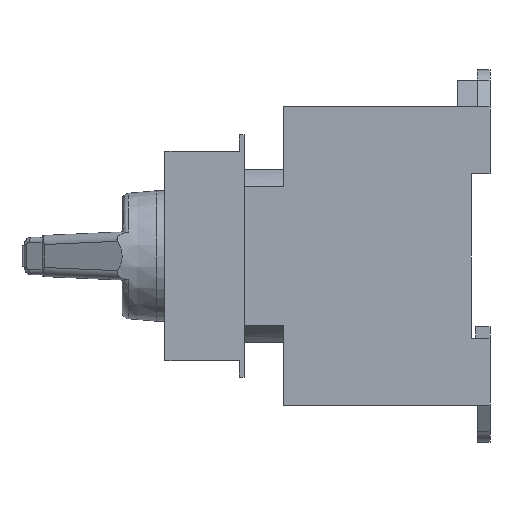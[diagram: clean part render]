
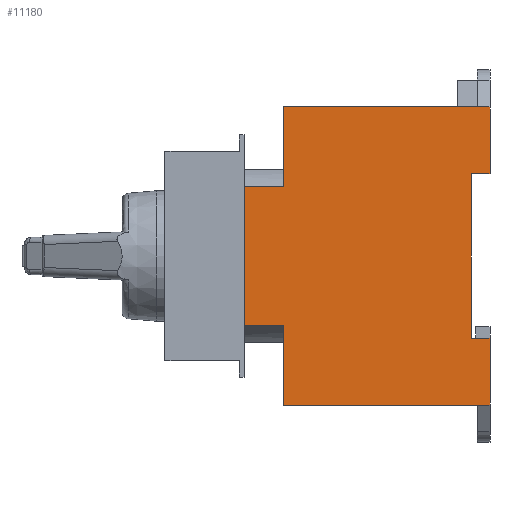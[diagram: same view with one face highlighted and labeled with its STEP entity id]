
A CAD part, left-side view. The second image highlights one B-rep face of the part: STEP entity #11180.
In plain terms, the highlighted planar face has unit normal (-1, 0, 0).
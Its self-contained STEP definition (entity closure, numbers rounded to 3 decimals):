
#144 = EDGE_CURVE ( 'NONE', #2585, #4049, #7079, .T. ) ;
#428 = VECTOR ( 'NONE', #7724, 1000. ) ;
#489 = VERTEX_POINT ( 'NONE', #7848 ) ;
#712 = LINE ( 'NONE', #1065, #428 ) ;
#810 = VECTOR ( 'NONE', #11464, 1000. ) ;
#963 = LINE ( 'NONE', #3751, #810 ) ;
#1057 = DIRECTION ( 'NONE',  ( 0., 0., -1. ) ) ;
#1065 = CARTESIAN_POINT ( 'NONE',  ( -24., 44.3, -32. ) ) ;
#1073 = DIRECTION ( 'NONE',  ( 0., 0., 1. ) ) ;
#1139 = CARTESIAN_POINT ( 'NONE',  ( -24., 0., -32. ) ) ;
#1658 = DIRECTION ( 'NONE',  ( 1., 0., 0. ) ) ;
#1739 = DIRECTION ( 'NONE',  ( 0., 1., 0. ) ) ;
#1773 = EDGE_CURVE ( 'NONE', #5407, #2585, #2458, .T. ) ;
#1981 = VECTOR ( 'NONE', #1057, 1000. ) ;
#1989 = VECTOR ( 'NONE', #6213, 1000. ) ;
#2133 = LINE ( 'NONE', #1139, #1981 ) ;
#2183 = LINE ( 'NONE', #9574, #1989 ) ;
#2320 = VECTOR ( 'NONE', #11396, 1000. ) ;
#2458 = LINE ( 'NONE', #11453, #2320 ) ;
#2585 = VERTEX_POINT ( 'NONE', #12430 ) ;
#2740 = CARTESIAN_POINT ( 'NONE',  ( -24., 0., 17.65 ) ) ;
#2938 = EDGE_CURVE ( 'NONE', #4657, #4683, #9770, .T. ) ;
#3036 = VERTEX_POINT ( 'NONE', #4885 ) ;
#3192 = VERTEX_POINT ( 'NONE', #2740 ) ;
#3436 = DIRECTION ( 'NONE',  ( 0., 1., 0. ) ) ;
#3468 = CARTESIAN_POINT ( 'NONE',  ( -24., 0., -17.65 ) ) ;
#3751 = CARTESIAN_POINT ( 'NONE',  ( -24., 44.3, 15. ) ) ;
#3755 = CARTESIAN_POINT ( 'NONE',  ( -24., 44.3, -15. ) ) ;
#3913 = VERTEX_POINT ( 'NONE', #11437 ) ;
#4046 = EDGE_CURVE ( 'NONE', #4347, #4335, #4823, .T. ) ;
#4049 = VERTEX_POINT ( 'NONE', #3468 ) ;
#4101 = VECTOR ( 'NONE', #1739, 1000. ) ;
#4193 = EDGE_CURVE ( 'NONE', #3913, #489, #4406, .T. ) ;
#4335 = VERTEX_POINT ( 'NONE', #9823 ) ;
#4347 = VERTEX_POINT ( 'NONE', #9687 ) ;
#4406 = LINE ( 'NONE', #6548, #4101 ) ;
#4657 = VERTEX_POINT ( 'NONE', #8824 ) ;
#4674 = EDGE_CURVE ( 'NONE', #4049, #3913, #2133, .T. ) ;
#4683 = VERTEX_POINT ( 'NONE', #6683 ) ;
#4823 = LINE ( 'NONE', #3755, #4856 ) ;
#4856 = VECTOR ( 'NONE', #3436, 1000. ) ;
#4885 = CARTESIAN_POINT ( 'NONE',  ( -24., 52.8, 15. ) ) ;
#4943 = VERTEX_POINT ( 'NONE', #11505 ) ;
#5048 = FACE_OUTER_BOUND ( 'NONE', #5388, .T. ) ;
#5247 = CARTESIAN_POINT ( 'NONE',  ( -24., 44.3, 17.65 ) ) ;
#5388 = EDGE_LOOP ( 'NONE', ( #7087, #7169, #7244, #7320, #7333, #7379, #7496, #7545, #7558, #7646, #7662, #7823 ) ) ;
#5407 = VERTEX_POINT ( 'NONE', #8499 ) ;
#6063 = DIRECTION ( 'NONE',  ( 0., 0., -1. ) ) ;
#6168 = EDGE_CURVE ( 'NONE', #3192, #5407, #9827, .T. ) ;
#6213 = DIRECTION ( 'NONE',  ( 0., -1., 0. ) ) ;
#6496 = CARTESIAN_POINT ( 'NONE',  ( -24., 52.8, -32. ) ) ;
#6548 = CARTESIAN_POINT ( 'NONE',  ( -24., 44.3, -32. ) ) ;
#6679 = EDGE_CURVE ( 'NONE', #4335, #3036, #8618, .T. ) ;
#6683 = CARTESIAN_POINT ( 'NONE',  ( -24., 44.3, 32. ) ) ;
#6854 = DIRECTION ( 'NONE',  ( 0., 0., 1. ) ) ;
#6913 = VECTOR ( 'NONE', #12060, 1000. ) ;
#6993 = EDGE_CURVE ( 'NONE', #4943, #3192, #7677, .T. ) ;
#7016 = DIRECTION ( 'NONE',  ( 0., 1., 0. ) ) ;
#7079 = LINE ( 'NONE', #12238, #6913 ) ;
#7087 = ORIENTED_EDGE ( 'NONE', *, *, #6168, .F. ) ;
#7169 = ORIENTED_EDGE ( 'NONE', *, *, #6993, .F. ) ;
#7244 = ORIENTED_EDGE ( 'NONE', *, *, #8677, .F. ) ;
#7320 = ORIENTED_EDGE ( 'NONE', *, *, #2938, .F. ) ;
#7333 = ORIENTED_EDGE ( 'NONE', *, *, #12202, .F. ) ;
#7379 = ORIENTED_EDGE ( 'NONE', *, *, #6679, .F. ) ;
#7398 = PLANE ( 'NONE',  #10187 ) ;
#7400 = CARTESIAN_POINT ( 'NONE',  ( -24., 44.3, -32. ) ) ;
#7496 = ORIENTED_EDGE ( 'NONE', *, *, #4046, .F. ) ;
#7545 = ORIENTED_EDGE ( 'NONE', *, *, #12355, .F. ) ;
#7558 = ORIENTED_EDGE ( 'NONE', *, *, #4193, .F. ) ;
#7646 = ORIENTED_EDGE ( 'NONE', *, *, #4674, .F. ) ;
#7662 = ORIENTED_EDGE ( 'NONE', *, *, #144, .F. ) ;
#7677 = LINE ( 'NONE', #11889, #7794 ) ;
#7724 = DIRECTION ( 'NONE',  ( 0., 0., 1. ) ) ;
#7794 = VECTOR ( 'NONE', #6063, 1000. ) ;
#7823 = ORIENTED_EDGE ( 'NONE', *, *, #1773, .F. ) ;
#7848 = CARTESIAN_POINT ( 'NONE',  ( -24., 44.3, -32. ) ) ;
#8350 = DIRECTION ( 'NONE',  ( 0., 0., -1. ) ) ;
#8499 = CARTESIAN_POINT ( 'NONE',  ( -24., 4., 17.65 ) ) ;
#8605 = VECTOR ( 'NONE', #1073, 1000. ) ;
#8618 = LINE ( 'NONE', #6496, #8605 ) ;
#8677 = EDGE_CURVE ( 'NONE', #4683, #4943, #2183, .T. ) ;
#8824 = CARTESIAN_POINT ( 'NONE',  ( -24., 44.3, 15. ) ) ;
#9574 = CARTESIAN_POINT ( 'NONE',  ( -24., 44.3, 32. ) ) ;
#9642 = VECTOR ( 'NONE', #6854, 1000. ) ;
#9687 = CARTESIAN_POINT ( 'NONE',  ( -24., 44.3, -15. ) ) ;
#9770 = LINE ( 'NONE', #7400, #9642 ) ;
#9796 = VECTOR ( 'NONE', #7016, 1000. ) ;
#9823 = CARTESIAN_POINT ( 'NONE',  ( -24., 52.8, -15. ) ) ;
#9827 = LINE ( 'NONE', #5247, #9796 ) ;
#10187 = AXIS2_PLACEMENT_3D ( 'NONE', #11293, #1658, #8350 ) ;
#11180 = ADVANCED_FACE ( 'NONE', ( #5048 ), #7398, .F. ) ;
#11293 = CARTESIAN_POINT ( 'NONE',  ( -24., 44.3, -32. ) ) ;
#11396 = DIRECTION ( 'NONE',  ( 0., 0., -1. ) ) ;
#11437 = CARTESIAN_POINT ( 'NONE',  ( -24., 0., -32. ) ) ;
#11453 = CARTESIAN_POINT ( 'NONE',  ( -24., 4., -32. ) ) ;
#11464 = DIRECTION ( 'NONE',  ( 0., -1., 0. ) ) ;
#11505 = CARTESIAN_POINT ( 'NONE',  ( -24., 0., 32. ) ) ;
#11889 = CARTESIAN_POINT ( 'NONE',  ( -24., 0., -32. ) ) ;
#12060 = DIRECTION ( 'NONE',  ( 0., -1., 0. ) ) ;
#12202 = EDGE_CURVE ( 'NONE', #3036, #4657, #963, .T. ) ;
#12238 = CARTESIAN_POINT ( 'NONE',  ( -24., 44.3, -17.65 ) ) ;
#12355 = EDGE_CURVE ( 'NONE', #489, #4347, #712, .T. ) ;
#12430 = CARTESIAN_POINT ( 'NONE',  ( -24., 4., -17.65 ) ) ;
